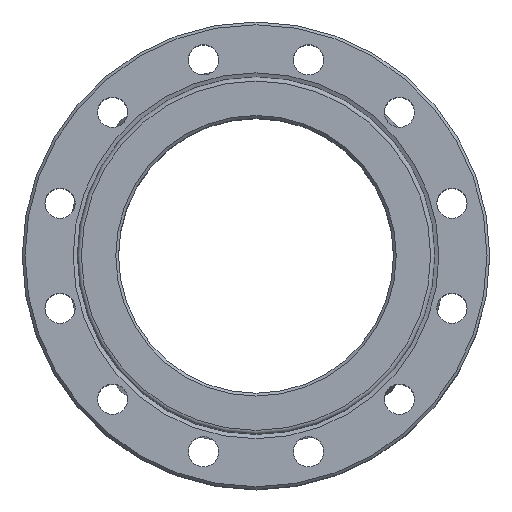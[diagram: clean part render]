
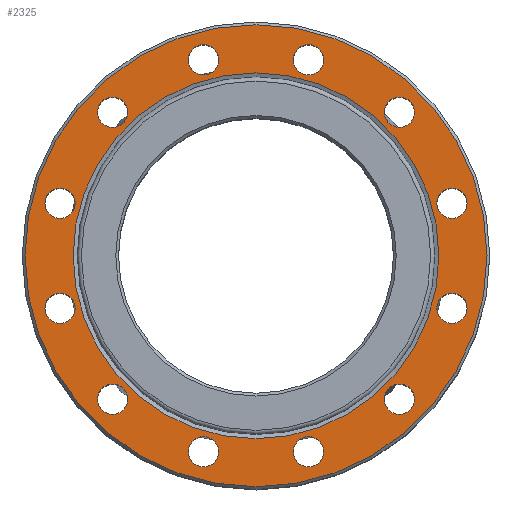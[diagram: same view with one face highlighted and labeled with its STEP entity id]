
A CAD part, top view. The second image highlights one B-rep face of the part: STEP entity #2325.
In plain terms, the highlighted planar face has unit normal (0, 0, 1).
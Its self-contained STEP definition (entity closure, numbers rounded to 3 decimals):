
#101=PLANE('',#2582);
#169=FACE_BOUND('',#648,.T.);
#170=FACE_BOUND('',#649,.T.);
#171=FACE_BOUND('',#650,.T.);
#172=FACE_BOUND('',#651,.T.);
#173=FACE_BOUND('',#652,.T.);
#174=FACE_BOUND('',#653,.T.);
#175=FACE_BOUND('',#654,.T.);
#176=FACE_BOUND('',#655,.T.);
#177=FACE_BOUND('',#656,.T.);
#178=FACE_BOUND('',#657,.T.);
#179=FACE_BOUND('',#658,.T.);
#180=FACE_BOUND('',#659,.T.);
#181=FACE_BOUND('',#660,.T.);
#488=FACE_OUTER_BOUND('',#647,.T.);
#647=EDGE_LOOP('',(#2151));
#648=EDGE_LOOP('',(#2152));
#649=EDGE_LOOP('',(#2153));
#650=EDGE_LOOP('',(#2154));
#651=EDGE_LOOP('',(#2155));
#652=EDGE_LOOP('',(#2156));
#653=EDGE_LOOP('',(#2157));
#654=EDGE_LOOP('',(#2158));
#655=EDGE_LOOP('',(#2159));
#656=EDGE_LOOP('',(#2160));
#657=EDGE_LOOP('',(#2161));
#658=EDGE_LOOP('',(#2162));
#659=EDGE_LOOP('',(#2163));
#660=EDGE_LOOP('',(#2164));
#881=CIRCLE('',#2390,11.);
#883=CIRCLE('',#2393,11.);
#885=CIRCLE('',#2396,11.);
#887=CIRCLE('',#2399,11.);
#889=CIRCLE('',#2402,11.);
#891=CIRCLE('',#2405,11.);
#893=CIRCLE('',#2408,11.);
#895=CIRCLE('',#2411,11.);
#897=CIRCLE('',#2414,11.);
#899=CIRCLE('',#2417,11.);
#901=CIRCLE('',#2420,11.);
#903=CIRCLE('',#2423,11.);
#1008=CIRCLE('',#2581,168.);
#1009=CIRCLE('',#2583,133.);
#1052=VERTEX_POINT('',#3320);
#1054=VERTEX_POINT('',#3326);
#1056=VERTEX_POINT('',#3332);
#1058=VERTEX_POINT('',#3338);
#1060=VERTEX_POINT('',#3344);
#1062=VERTEX_POINT('',#3350);
#1064=VERTEX_POINT('',#3356);
#1066=VERTEX_POINT('',#3362);
#1068=VERTEX_POINT('',#3368);
#1070=VERTEX_POINT('',#3374);
#1072=VERTEX_POINT('',#3380);
#1074=VERTEX_POINT('',#3386);
#1233=VERTEX_POINT('',#4866);
#1234=VERTEX_POINT('',#4870);
#1274=EDGE_CURVE('',#1052,#1052,#881,.T.);
#1277=EDGE_CURVE('',#1054,#1054,#883,.T.);
#1280=EDGE_CURVE('',#1056,#1056,#885,.T.);
#1283=EDGE_CURVE('',#1058,#1058,#887,.T.);
#1286=EDGE_CURVE('',#1060,#1060,#889,.T.);
#1289=EDGE_CURVE('',#1062,#1062,#891,.T.);
#1292=EDGE_CURVE('',#1064,#1064,#893,.T.);
#1295=EDGE_CURVE('',#1066,#1066,#895,.T.);
#1298=EDGE_CURVE('',#1068,#1068,#897,.T.);
#1301=EDGE_CURVE('',#1070,#1070,#899,.T.);
#1304=EDGE_CURVE('',#1072,#1072,#901,.T.);
#1307=EDGE_CURVE('',#1074,#1074,#903,.T.);
#1546=EDGE_CURVE('',#1233,#1233,#1008,.T.);
#1547=EDGE_CURVE('',#1234,#1234,#1009,.T.);
#2151=ORIENTED_EDGE('',*,*,#1546,.F.);
#2152=ORIENTED_EDGE('',*,*,#1274,.T.);
#2153=ORIENTED_EDGE('',*,*,#1277,.T.);
#2154=ORIENTED_EDGE('',*,*,#1280,.T.);
#2155=ORIENTED_EDGE('',*,*,#1283,.T.);
#2156=ORIENTED_EDGE('',*,*,#1286,.T.);
#2157=ORIENTED_EDGE('',*,*,#1289,.T.);
#2158=ORIENTED_EDGE('',*,*,#1292,.T.);
#2159=ORIENTED_EDGE('',*,*,#1295,.T.);
#2160=ORIENTED_EDGE('',*,*,#1298,.T.);
#2161=ORIENTED_EDGE('',*,*,#1301,.T.);
#2162=ORIENTED_EDGE('',*,*,#1304,.T.);
#2163=ORIENTED_EDGE('',*,*,#1307,.T.);
#2164=ORIENTED_EDGE('',*,*,#1547,.T.);
#2325=ADVANCED_FACE('',(#488,#169,#170,#171,#172,#173,#174,#175,#176,#177,
#178,#179,#180,#181),#101,.F.);
#2390=AXIS2_PLACEMENT_3D('',#3321,#2706,#2707);
#2393=AXIS2_PLACEMENT_3D('',#3327,#2713,#2714);
#2396=AXIS2_PLACEMENT_3D('',#3333,#2720,#2721);
#2399=AXIS2_PLACEMENT_3D('',#3339,#2727,#2728);
#2402=AXIS2_PLACEMENT_3D('',#3345,#2734,#2735);
#2405=AXIS2_PLACEMENT_3D('',#3351,#2741,#2742);
#2408=AXIS2_PLACEMENT_3D('',#3357,#2748,#2749);
#2411=AXIS2_PLACEMENT_3D('',#3363,#2755,#2756);
#2414=AXIS2_PLACEMENT_3D('',#3369,#2762,#2763);
#2417=AXIS2_PLACEMENT_3D('',#3375,#2769,#2770);
#2420=AXIS2_PLACEMENT_3D('',#3381,#2776,#2777);
#2423=AXIS2_PLACEMENT_3D('',#3387,#2783,#2784);
#2581=AXIS2_PLACEMENT_3D('',#4868,#3170,#3171);
#2582=AXIS2_PLACEMENT_3D('',#4869,#3172,#3173);
#2583=AXIS2_PLACEMENT_3D('',#4871,#3174,#3175);
#2706=DIRECTION('center_axis',(0.,0.,-1.));
#2707=DIRECTION('ref_axis',(1.,0.,0.));
#2713=DIRECTION('center_axis',(0.,0.,-1.));
#2714=DIRECTION('ref_axis',(1.,0.,0.));
#2720=DIRECTION('center_axis',(0.,0.,-1.));
#2721=DIRECTION('ref_axis',(1.,0.,0.));
#2727=DIRECTION('center_axis',(0.,0.,-1.));
#2728=DIRECTION('ref_axis',(1.,0.,0.));
#2734=DIRECTION('center_axis',(0.,0.,-1.));
#2735=DIRECTION('ref_axis',(1.,0.,0.));
#2741=DIRECTION('center_axis',(0.,0.,-1.));
#2742=DIRECTION('ref_axis',(1.,0.,0.));
#2748=DIRECTION('center_axis',(0.,0.,-1.));
#2749=DIRECTION('ref_axis',(1.,0.,0.));
#2755=DIRECTION('center_axis',(0.,0.,-1.));
#2756=DIRECTION('ref_axis',(1.,0.,0.));
#2762=DIRECTION('center_axis',(0.,0.,-1.));
#2763=DIRECTION('ref_axis',(1.,0.,0.));
#2769=DIRECTION('center_axis',(0.,0.,-1.));
#2770=DIRECTION('ref_axis',(1.,0.,0.));
#2776=DIRECTION('center_axis',(0.,0.,-1.));
#2777=DIRECTION('ref_axis',(1.,0.,0.));
#2783=DIRECTION('center_axis',(0.,0.,-1.));
#2784=DIRECTION('ref_axis',(1.,0.,0.));
#3170=DIRECTION('center_axis',(0.,0.,-1.));
#3171=DIRECTION('ref_axis',(1.,0.,0.));
#3172=DIRECTION('center_axis',(0.,0.,-1.));
#3173=DIRECTION('ref_axis',(-1.,0.,0.));
#3174=DIRECTION('center_axis',(0.,0.,-1.));
#3175=DIRECTION('ref_axis',(0.,1.,0.));
#3320=CARTESIAN_POINT('',(-153.474,-38.176,101.));
#3321=CARTESIAN_POINT('Origin',(-142.474,-38.176,101.));
#3326=CARTESIAN_POINT('',(-49.176,-142.474,101.));
#3327=CARTESIAN_POINT('Origin',(-38.176,-142.474,101.));
#3332=CARTESIAN_POINT('',(93.298,-104.298,101.));
#3333=CARTESIAN_POINT('Origin',(104.298,-104.298,101.));
#3338=CARTESIAN_POINT('',(93.298,104.298,101.));
#3339=CARTESIAN_POINT('Origin',(104.298,104.298,101.));
#3344=CARTESIAN_POINT('',(-49.176,142.474,101.));
#3345=CARTESIAN_POINT('Origin',(-38.176,142.474,101.));
#3350=CARTESIAN_POINT('',(-153.474,38.176,101.));
#3351=CARTESIAN_POINT('Origin',(-142.474,38.176,101.));
#3356=CARTESIAN_POINT('',(-115.298,104.298,101.));
#3357=CARTESIAN_POINT('Origin',(-104.298,104.298,101.));
#3362=CARTESIAN_POINT('',(27.176,142.474,101.));
#3363=CARTESIAN_POINT('Origin',(38.176,142.474,101.));
#3368=CARTESIAN_POINT('',(131.474,38.176,101.));
#3369=CARTESIAN_POINT('Origin',(142.474,38.176,101.));
#3374=CARTESIAN_POINT('',(27.176,-142.474,101.));
#3375=CARTESIAN_POINT('Origin',(38.176,-142.474,101.));
#3380=CARTESIAN_POINT('',(-115.298,-104.298,101.));
#3381=CARTESIAN_POINT('Origin',(-104.298,-104.298,101.));
#3386=CARTESIAN_POINT('',(131.474,-38.176,101.));
#3387=CARTESIAN_POINT('Origin',(142.474,-38.176,101.));
#4866=CARTESIAN_POINT('',(-168.,0.,101.));
#4868=CARTESIAN_POINT('Origin',(0.,0.,101.));
#4869=CARTESIAN_POINT('Origin',(0.,0.,101.));
#4870=CARTESIAN_POINT('',(0.,-133.,101.));
#4871=CARTESIAN_POINT('Origin',(0.,0.,101.));
